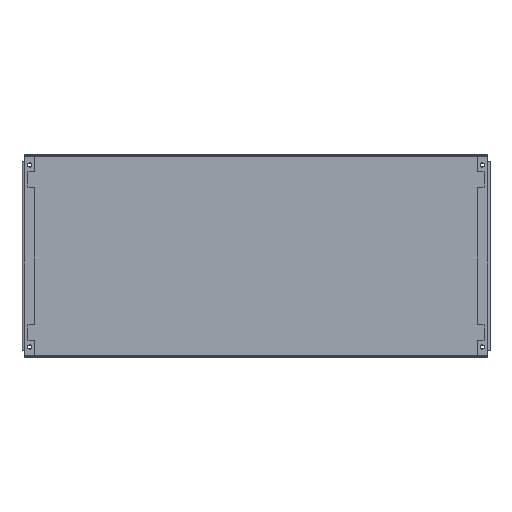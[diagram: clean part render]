
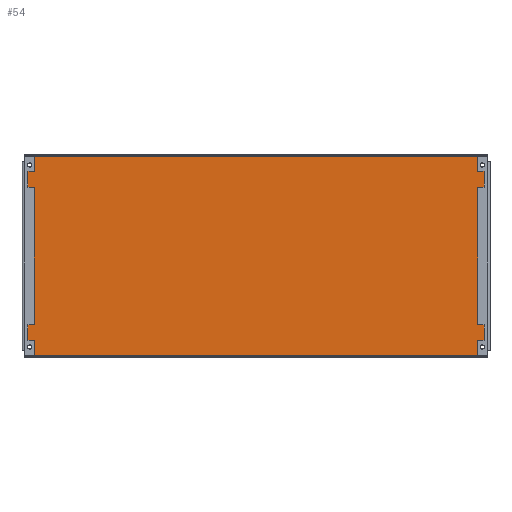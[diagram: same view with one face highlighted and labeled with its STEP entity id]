
A CAD part, top view. The second image highlights one B-rep face of the part: STEP entity #54.
In plain terms, the highlighted planar face has unit normal (0, 0, 1).
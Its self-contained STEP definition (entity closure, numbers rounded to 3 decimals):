
#54=ADVANCED_FACE('',(#186,#188,#190,#192,#194),#196,.T.);
#186=FACE_BOUND('',#187,.T.);
#187=EDGE_LOOP('',(#1129,#1130,#1131,#1132,#1133,#1134,#1135,#1136));
#188=FACE_BOUND('',#189,.T.);
#189=EDGE_LOOP('',(#1137));
#190=FACE_BOUND('',#191,.T.);
#191=EDGE_LOOP('',(#1138));
#192=FACE_BOUND('',#193,.T.);
#193=EDGE_LOOP('',(#1139));
#194=FACE_BOUND('',#195,.T.);
#195=EDGE_LOOP('',(#1140));
#196=PLANE('',#197);
#197=AXIS2_PLACEMENT_3D('',#198,#199,#200);
#198=CARTESIAN_POINT('',(0.,0.,2.));
#199=DIRECTION('',(0.,0.,1.));
#200=DIRECTION('',(1.,0.,0.));
#1129=ORIENTED_EDGE('',*,*,#1689,.T.);
#1130=ORIENTED_EDGE('',*,*,#1690,.T.);
#1131=ORIENTED_EDGE('',*,*,#1691,.T.);
#1132=ORIENTED_EDGE('',*,*,#1692,.T.);
#1133=ORIENTED_EDGE('',*,*,#1693,.T.);
#1134=ORIENTED_EDGE('',*,*,#1694,.T.);
#1135=ORIENTED_EDGE('',*,*,#1695,.T.);
#1136=ORIENTED_EDGE('',*,*,#1696,.T.);
#1137=ORIENTED_EDGE('',*,*,#1697,.T.);
#1138=ORIENTED_EDGE('',*,*,#1698,.T.);
#1139=ORIENTED_EDGE('',*,*,#1699,.T.);
#1140=ORIENTED_EDGE('',*,*,#1700,.T.);
#1689=EDGE_CURVE('',#1981,#1982,#1983,.F.);
#1690=EDGE_CURVE('',#1982,#1984,#1985,.T.);
#1691=EDGE_CURVE('',#1984,#1986,#1987,.F.);
#1692=EDGE_CURVE('',#1986,#1988,#1989,.T.);
#1693=EDGE_CURVE('',#1988,#1990,#1991,.F.);
#1694=EDGE_CURVE('',#1990,#1992,#1993,.T.);
#1695=EDGE_CURVE('',#1992,#1994,#1995,.F.);
#1696=EDGE_CURVE('',#1994,#1981,#1996,.T.);
#1697=EDGE_CURVE('',#1997,#1997,#1998,.T.);
#1698=EDGE_CURVE('',#1999,#1999,#2000,.T.);
#1699=EDGE_CURVE('',#2001,#2001,#2002,.T.);
#1700=EDGE_CURVE('',#2003,#2003,#2004,.T.);
#1981=VERTEX_POINT('',#2473);
#1982=VERTEX_POINT('',#2474);
#1983=LINE('',#2475,#2476);
#1984=VERTEX_POINT('',#2478);
#1985=LINE('',#2479,#2480);
#1986=VERTEX_POINT('',#2482);
#1987=LINE('',#2483,#2484);
#1988=VERTEX_POINT('',#2486);
#1989=LINE('',#2487,#2488);
#1990=VERTEX_POINT('',#2490);
#1991=LINE('',#2491,#2492);
#1992=VERTEX_POINT('',#2494);
#1993=LINE('',#2495,#2496);
#1994=VERTEX_POINT('',#2498);
#1995=LINE('',#2499,#2500);
#1996=LINE('',#2502,#2503);
#1997=VERTEX_POINT('',#2505);
#1998=CIRCLE('',#2506,8.5);
#1999=VERTEX_POINT('',#2510);
#2000=CIRCLE('',#2511,8.5);
#2001=VERTEX_POINT('',#2515);
#2002=CIRCLE('',#2516,8.5);
#2003=VERTEX_POINT('',#2520);
#2004=CIRCLE('',#2521,8.5);
#2473=CARTESIAN_POINT('',(4.,15.,2.));
#2474=CARTESIAN_POINT('',(4.,4.,2.));
#2475=CARTESIAN_POINT('',(4.,4.,2.));
#2476=VECTOR('',#2477,1.);
#2477=DIRECTION('',(0.,1.,0.));
#2478=CARTESIAN_POINT('',(896.,4.,2.));
#2479=CARTESIAN_POINT('',(4.,4.,2.));
#2480=VECTOR('',#2481,1.);
#2481=DIRECTION('',(1.,0.,0.));
#2482=CARTESIAN_POINT('',(896.,15.,2.));
#2483=CARTESIAN_POINT('',(896.,15.,2.));
#2484=VECTOR('',#2485,1.);
#2485=DIRECTION('',(0.,-1.,0.));
#2486=CARTESIAN_POINT('',(896.,377.,2.));
#2487=CARTESIAN_POINT('',(896.,15.,2.));
#2488=VECTOR('',#2489,1.);
#2489=DIRECTION('',(0.,1.,0.));
#2490=CARTESIAN_POINT('',(896.,388.,2.));
#2491=CARTESIAN_POINT('',(896.,388.,2.));
#2492=VECTOR('',#2493,1.);
#2493=DIRECTION('',(0.,-1.,0.));
#2494=CARTESIAN_POINT('',(4.,388.,2.));
#2495=CARTESIAN_POINT('',(896.,388.,2.));
#2496=VECTOR('',#2497,1.);
#2497=DIRECTION('',(-1.,0.,0.));
#2498=CARTESIAN_POINT('',(4.,377.,2.));
#2499=CARTESIAN_POINT('',(4.,377.,2.));
#2500=VECTOR('',#2501,1.);
#2501=DIRECTION('',(0.,1.,0.));
#2502=CARTESIAN_POINT('',(4.,377.,2.));
#2503=VECTOR('',#2504,1.);
#2504=DIRECTION('',(0.,-1.,0.));
#2505=CARTESIAN_POINT('',(23.5,21.,2.));
#2506=AXIS2_PLACEMENT_3D('',#2507,#2508,#2509);
#2507=CARTESIAN_POINT('',(15.,21.,2.));
#2508=DIRECTION('',(0.,0.,-1.));
#2509=DIRECTION('',(1.,0.,0.));
#2510=CARTESIAN_POINT('',(893.5,21.,2.));
#2511=AXIS2_PLACEMENT_3D('',#2512,#2513,#2514);
#2512=CARTESIAN_POINT('',(885.,21.,2.));
#2513=DIRECTION('',(0.,0.,-1.));
#2514=DIRECTION('',(1.,0.,0.));
#2515=CARTESIAN_POINT('',(23.5,371.,2.));
#2516=AXIS2_PLACEMENT_3D('',#2517,#2518,#2519);
#2517=CARTESIAN_POINT('',(15.,371.,2.));
#2518=DIRECTION('',(0.,0.,-1.));
#2519=DIRECTION('',(1.,0.,0.));
#2520=CARTESIAN_POINT('',(893.5,371.,2.));
#2521=AXIS2_PLACEMENT_3D('',#2522,#2523,#2524);
#2522=CARTESIAN_POINT('',(885.,371.,2.));
#2523=DIRECTION('',(0.,0.,-1.));
#2524=DIRECTION('',(1.,0.,0.));
